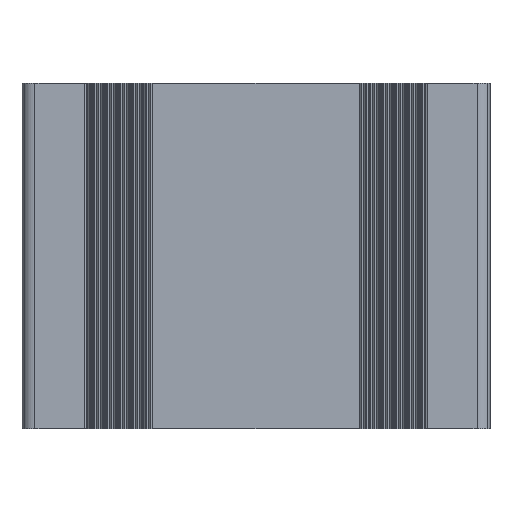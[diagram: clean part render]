
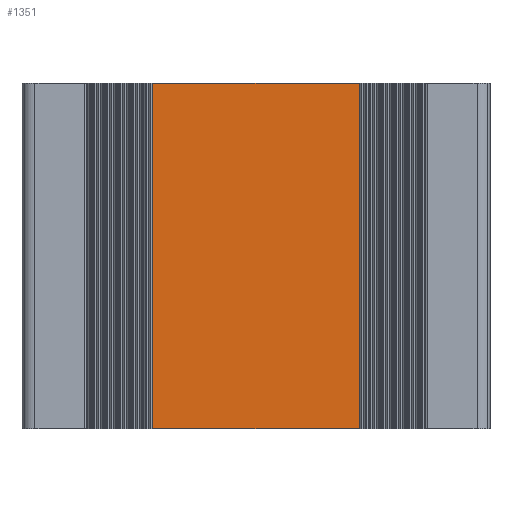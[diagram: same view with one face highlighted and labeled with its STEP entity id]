
A CAD part, front view. The second image highlights one B-rep face of the part: STEP entity #1351.
In plain terms, the highlighted planar face has unit normal (0, -1, 0).
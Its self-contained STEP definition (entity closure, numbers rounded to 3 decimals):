
#96 = DIRECTION ( 'NONE',  ( 0., 1., 0. ) ) ;
#617 = DIRECTION ( 'NONE',  ( 0., 0., 1. ) ) ;
#857 = EDGE_CURVE ( 'NONE', #2908, #3663, #5092, .T. ) ;
#1075 = CARTESIAN_POINT ( 'NONE',  ( -23.959, -8.525, 40. ) ) ;
#1154 = DIRECTION ( 'NONE',  ( 1., 0., 0. ) ) ;
#1157 = VECTOR ( 'NONE', #1213, 1000. ) ;
#1187 = CARTESIAN_POINT ( 'NONE',  ( -23.959, -8.525, 40. ) ) ;
#1200 = EDGE_LOOP ( 'NONE', ( #3552, #5178, #8711, #6132 ) ) ;
#1213 = DIRECTION ( 'NONE',  ( 1., 0., 0. ) ) ;
#1351 = ADVANCED_FACE ( 'NONE', ( #4504 ), #7240, .F. ) ;
#2814 = CARTESIAN_POINT ( 'NONE',  ( -23.959, -8.525, 40. ) ) ;
#2908 = VERTEX_POINT ( 'NONE', #1075 ) ;
#3091 = LINE ( 'NONE', #5486, #1157 ) ;
#3526 = VECTOR ( 'NONE', #5309, 1000. ) ;
#3552 = ORIENTED_EDGE ( 'NONE', *, *, #7580, .T. ) ;
#3638 = VECTOR ( 'NONE', #6425, 1000. ) ;
#3663 = VERTEX_POINT ( 'NONE', #8343 ) ;
#3746 = EDGE_CURVE ( 'NONE', #2908, #6981, #7286, .T. ) ;
#4399 = AXIS2_PLACEMENT_3D ( 'NONE', #2814, #96, #617 ) ;
#4504 = FACE_OUTER_BOUND ( 'NONE', #1200, .T. ) ;
#5092 = LINE ( 'NONE', #1187, #8248 ) ;
#5178 = ORIENTED_EDGE ( 'NONE', *, *, #7451, .F. ) ;
#5309 = DIRECTION ( 'NONE',  ( 0., 0., -1. ) ) ;
#5486 = CARTESIAN_POINT ( 'NONE',  ( -23.959, -8.525, -40. ) ) ;
#5573 = CARTESIAN_POINT ( 'NONE',  ( 23.959, -8.525, -40. ) ) ;
#6010 = CARTESIAN_POINT ( 'NONE',  ( 23.959, -8.525, 40. ) ) ;
#6132 = ORIENTED_EDGE ( 'NONE', *, *, #3746, .T. ) ;
#6425 = DIRECTION ( 'NONE',  ( 0., 0., -1. ) ) ;
#6981 = VERTEX_POINT ( 'NONE', #7228 ) ;
#7087 = CARTESIAN_POINT ( 'NONE',  ( -23.959, -8.525, 40. ) ) ;
#7148 = VERTEX_POINT ( 'NONE', #5573 ) ;
#7228 = CARTESIAN_POINT ( 'NONE',  ( -23.959, -8.525, -40. ) ) ;
#7240 = PLANE ( 'NONE',  #4399 ) ;
#7286 = LINE ( 'NONE', #7087, #3638 ) ;
#7451 = EDGE_CURVE ( 'NONE', #3663, #7148, #8325, .T. ) ;
#7580 = EDGE_CURVE ( 'NONE', #6981, #7148, #3091, .T. ) ;
#8248 = VECTOR ( 'NONE', #1154, 1000. ) ;
#8325 = LINE ( 'NONE', #6010, #3526 ) ;
#8343 = CARTESIAN_POINT ( 'NONE',  ( 23.959, -8.525, 40. ) ) ;
#8711 = ORIENTED_EDGE ( 'NONE', *, *, #857, .F. ) ;
